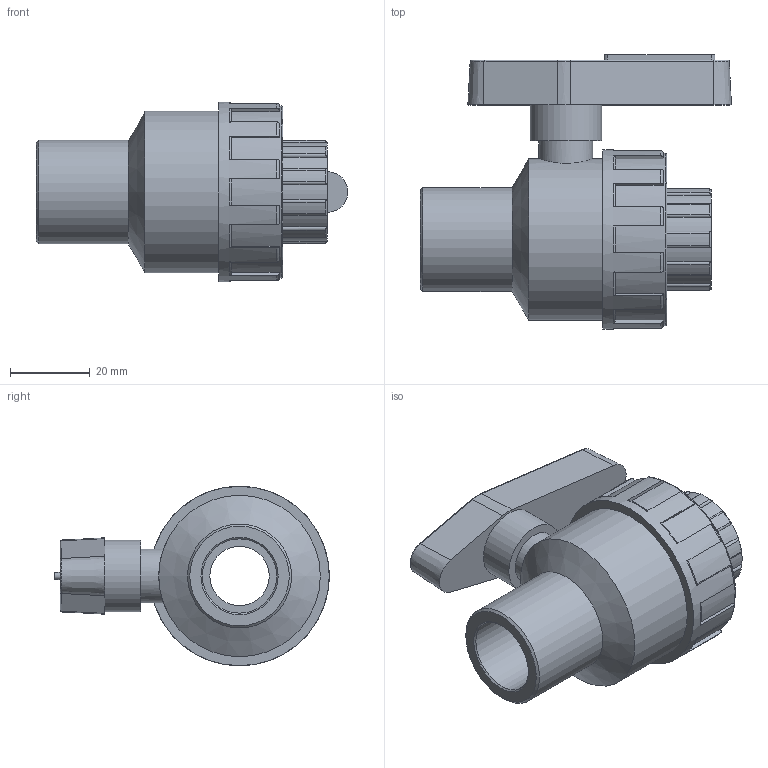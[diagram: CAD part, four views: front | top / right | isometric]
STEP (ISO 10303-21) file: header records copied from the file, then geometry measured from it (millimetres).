
FILE_DESCRIPTION(/* description */ ('PLASSON 1/NUT VALVE FEMALE THREADED 1/2" PVC'),/* implementation_level */ '2;1');
FILE_NAME(/* name */ 'C:\Dropbox\KIMPROJECTS-Inventor\99-16-3568-Processing\PVC Catalog 2017\113510\11351005.ipt.stp',/* time_stamp */ '2017-12-07T16:12:00+02:00',/* author */ ('KIM'),/* organization */ (''),/* preprocessor_version */ 'ST-DEVELOPER v15.6',/* originating_system */ 'Autodesk Inventor 2015',/* authorisation */ '');
FILE_SCHEMA (('AUTOMOTIVE_DESIGN { 1 0 10303 214 3 1 1 }'));
Length unit declared in the file: millimetre
Products named in the file (1): 11351005
Bounding box: 78.07 x 68.85 x 45 mm (x, y, z)
Volume: 67073.9 mm3; surface area: 18218.2 mm2
Topology: 1 solids, 1 shells, 166 faces, 439 edges, 282 vertices
Faces by surface type: plane 64, cylinder 55, torus 29, cone 18
Full cylindrical faces by diameter (mm): 13.5 x1, 14.905 x1, 18 x1, 18.631 x2, 26.083 x1, 40.5 x1, 43.2 x1, 45 x1
Entity records: 5618 total; most frequent: CARTESIAN_POINT 1546, DIRECTION 868, ORIENTED_EDGE 836, EDGE_CURVE 418, AXIS2_PLACEMENT_3D 352, VERTEX_POINT 276, EDGE_LOOP 190, CIRCLE 185
